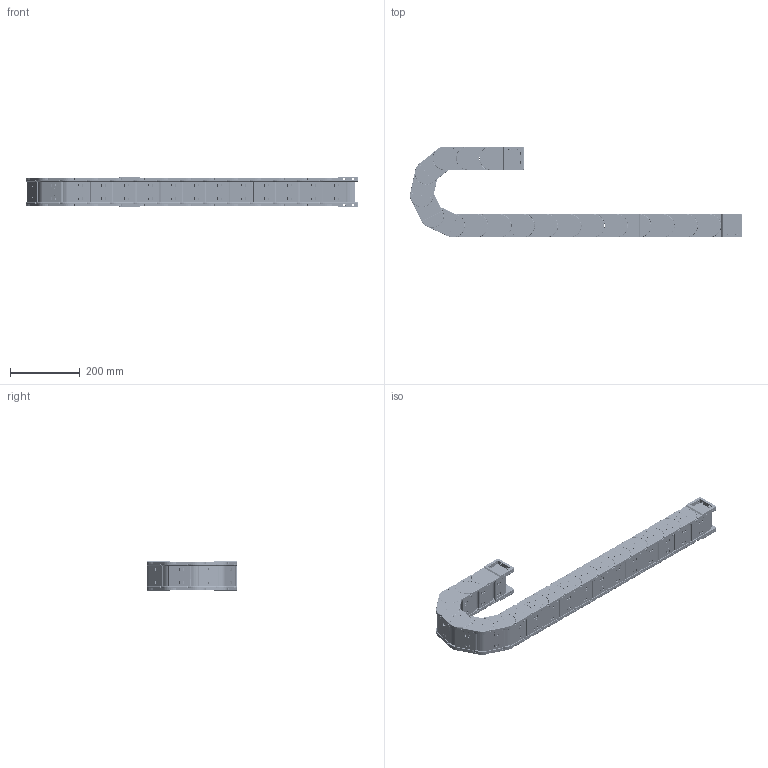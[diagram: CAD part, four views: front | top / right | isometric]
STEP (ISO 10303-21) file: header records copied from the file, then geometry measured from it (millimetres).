
FILE_DESCRIPTION (( 'STEP AP214' ), '1' );
FILE_NAME ('J45F.1.60S-3D賦凳芞.STEP', '2019-01-09T08:29:33', ( 'Sky123.Org' ), ( 'Sky123.Org' ), 'SwSTEP 2.0', 'SolidWorks 2017', '' );
FILE_SCHEMA (( 'AUTOMOTIVE_DESIGN' ));
Length unit declared in the file: millimetre
Products named in the file (11): 45-N源諉芛囀; N45FX75-等誹1 - 萵掛; H35X75-FBP-W猾敕え; H35-J45-FBP-N猾敕え; 45-崝Ч翋极2; 45-崝Ч翋极1; J45F.1.60S-3D賦凳芞; 5-N45X100-源諉俋 - 萵掛; 45-N源諉芛俋; 5-N45X100-源諉囀 - 萵掛; 45-臏簽1
Assembly tree (55 placements, depth 3):
  J45F.1.60S-3D賦凳芞
    N45FX75-等誹1 - 萵掛  x17
      45-崝Ч翋极1
      45-崝Ч翋极2
      H35-J45-FBP-N猾敕え
      H35X75-FBP-W猾敕え
    5-N45X100-源諉囀 - 萵掛
      45-N源諉芛囀  x2
      45-臏簽1  x12
      H35-J45-FBP-N猾敕え
      H35X75-FBP-W猾敕え
    5-N45X100-源諉俋 - 萵掛
      45-N源諉芛俋  x2
      45-臏簽1  x12
      H35-J45-FBP-N猾敕え
      H35X75-FBP-W猾敕え
Bounding box: 954.91 x 261 x 89 mm (x, y, z)
Volume: 2531636.6 mm3; surface area: 1313459.1 mm2
Topology: 100 solids, 100 shells, 23329 faces, 63191 edges, 39614 vertices
Faces by surface type: plane 12592, bspline 5004, cylinder 4977, torus 748, sphere 8
Entity records: 55392 total; most frequent: CARTESIAN_POINT 19957, ORIENTED_EDGE 7662, DIRECTION 6605, EDGE_CURVE 3831, LINE 2491, VECTOR 2491, VERTEX_POINT 2452, AXIS2_PLACEMENT_3D 2057
